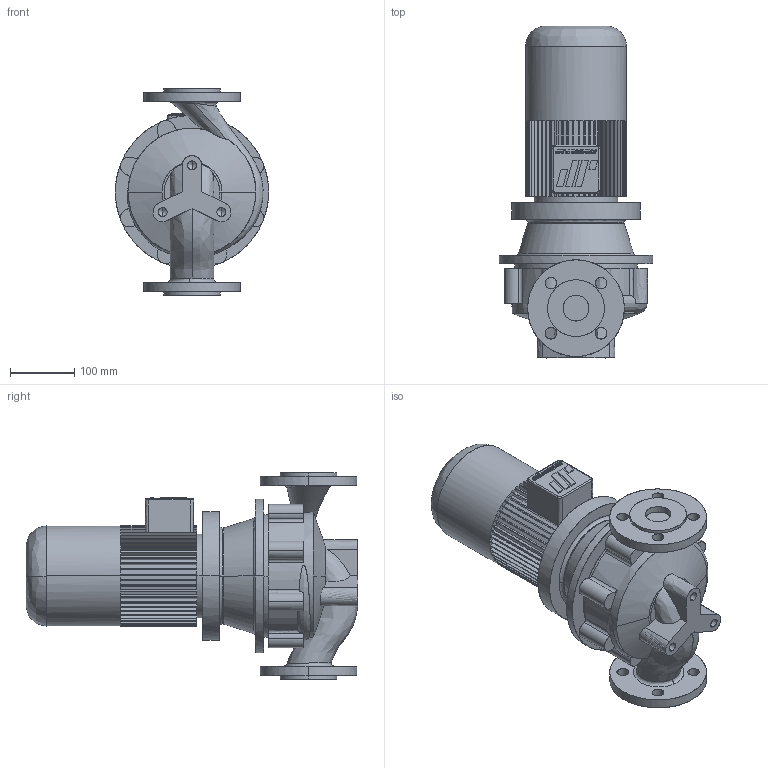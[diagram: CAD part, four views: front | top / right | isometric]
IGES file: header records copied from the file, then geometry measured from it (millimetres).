
Start section: CombiLine
Global section: file name: CLB_40-160_IEC80_ND10.igs; native system:  By UGS Corp.; preprocessor: XPlus GENERIC/IGES 3.0; author: Stageplaats; organization: Johnson Pump Water B.V.; date: 20070716.104827; units: millimetre
Bounding box: 238 x 515 x 320 mm (x, y, z)
Surface area: 604899 mm2 (no closed solid volume)
Topology: 0 solids, 0 shells, 536 faces, 3267 edges, 3261 vertices
Faces by surface type: bspline 536
